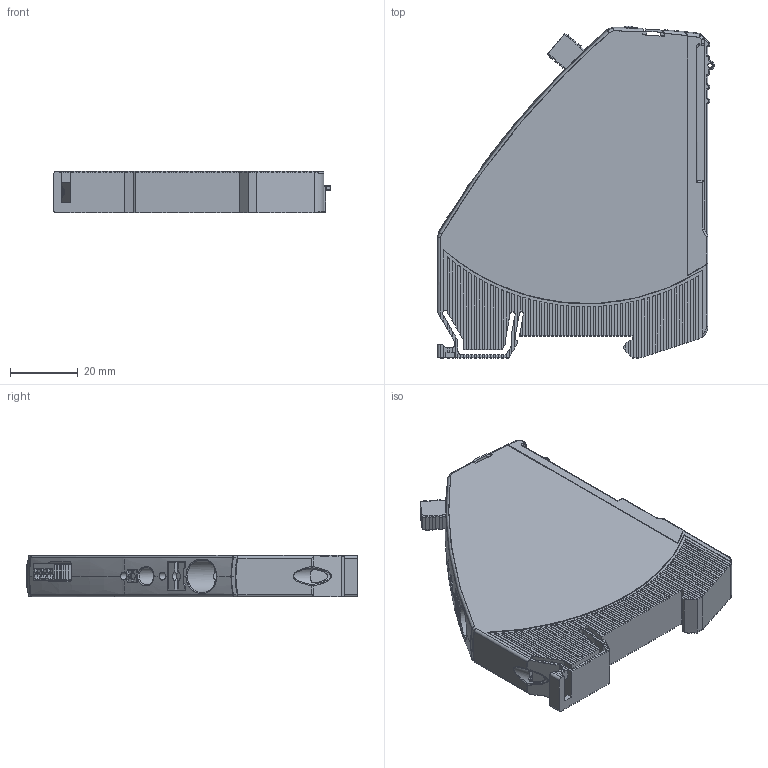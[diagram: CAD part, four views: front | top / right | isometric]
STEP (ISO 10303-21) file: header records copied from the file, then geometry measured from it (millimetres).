
FILE_DESCRIPTION((''),'2;1');
FILE_NAME('1694-PFD1244_ASM','2020-04-23T09:16:08',('AKuszpe'),('Rockwell Automation'),'CREO PARAMETRIC BY PTC INC, 2017380','CREO PARAMETRIC BY PTC INC, 2017380','');
FILE_SCHEMA(('AUTOMOTIVE_DESIGN { 1 0 10303 214 1 1 1 1 }'));
Products named in the file (5): 1694-PFD1244_CB; 1694-PFD1244_TERM; 1694-PFD1244ASM_1_ASM; 1694-PFD1244_ASM_ASM; 1694-PFD1244_ASM
Assembly tree (4 placements, depth 4):
  1694-PFD1244_ASM
    1694-PFD1244_ASM_ASM
      1694-PFD1244ASM_1_ASM
        1694-PFD1244_CB
        1694-PFD1244_TERM
Bounding box: 81.9 x 98.28 x 12.4 mm (x, y, z)
Surface area: 20410.3 mm2 (no closed solid volume)
Topology: 0 solids, 1270 shells, 1273 faces, 7132 edges, 7121 vertices
Faces by surface type: plane 858, cylinder 274, bspline 56, cone 36, torus 35, sphere 13, extrusion 1
Entity records: 106655 total; most frequent: CARTESIAN_POINT 24529, DIRECTION 9371, PRESENTATION_STYLE_ASSIGNMENT 8402, STYLED_ITEM 8402, ORIENTED_EDGE 7142, CURVE_STYLE 7132, EDGE_CURVE 7132, VERTEX_POINT 7122
